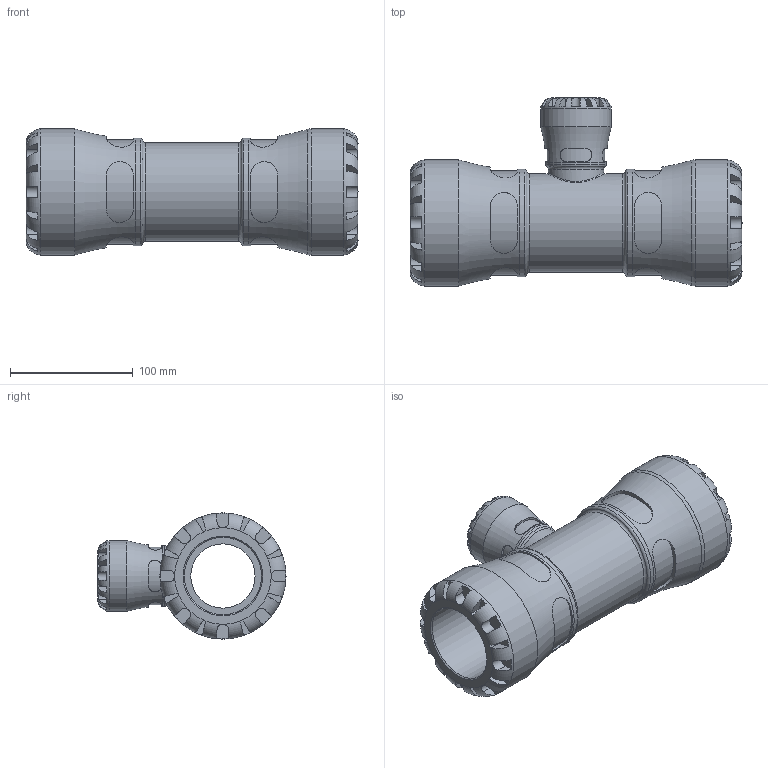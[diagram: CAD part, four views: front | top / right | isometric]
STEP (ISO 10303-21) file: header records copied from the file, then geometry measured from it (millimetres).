
FILE_DESCRIPTION(/* description */ ('PLASSON G-PLASS REDUCING TEE 63X32X63'),/* implementation_level */ '2;1');
FILE_NAME(/* name */ 'C:\Users\Kirill\Dropbox\99-16-3568-Processing\S1\153400\stp\153400063032.stp',/* time_stamp */ '2023-10-21T22:57:11+04:00',/* author */ ('KIM'),/* organization */ (''),/* preprocessor_version */ 'ST-DEVELOPER v17.2',/* originating_system */ 'Autodesk Inventor 2019',/* authorisation */ '');
FILE_SCHEMA (('AUTOMOTIVE_DESIGN { 1 0 10303 214 3 1 1 }'));
Length unit declared in the file: millimetre
Products named in the file (1): 153400063032
Bounding box: 271 x 153.5 x 103 mm (x, y, z)
Volume: 1071054.9 mm3; surface area: 166555.1 mm2
Topology: 1 solids, 1 shells, 287 faces, 761 edges, 489 vertices
Faces by surface type: plane 174, cylinder 97, torus 13, cone 2, bspline 1
Full cylindrical faces by diameter (mm): 26.667 x1, 32 x1, 45.24 x1, 49.3 x1, 52.5 x1, 58 x1, 63 x2, 80.34 x1, 87.55 x2, 103 x2
Entity records: 11938 total; most frequent: CARTESIAN_POINT 4663, ORIENTED_EDGE 1524, DIRECTION 1448, EDGE_CURVE 762, AXIS2_PLACEMENT_3D 596, VERTEX_POINT 490, CIRCLE 309, EDGE_LOOP 304
